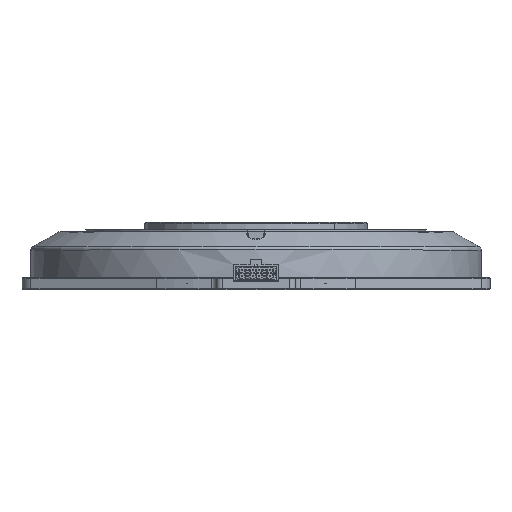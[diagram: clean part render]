
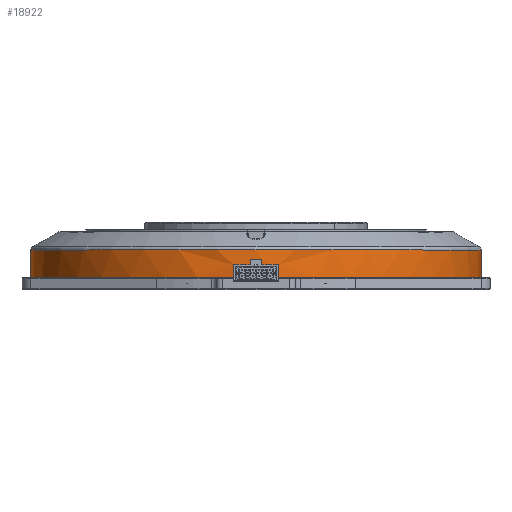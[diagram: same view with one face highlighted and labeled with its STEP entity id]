
A CAD part, top view. The second image highlights one B-rep face of the part: STEP entity #18922.
In plain terms, the highlighted cylindrical face has radius 119 mm (diameter 238 mm), a partial arc.
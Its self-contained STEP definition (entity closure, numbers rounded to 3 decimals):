
#2551=CARTESIAN_POINT('',(0.,20.685,0.));
#2552=DIRECTION('',(0.,-1.,0.));
#2553=DIRECTION('',(1.,0.,0.));
#2554=AXIS2_PLACEMENT_3D('',#2551,#2552,#2553);
#2559=DIRECTION('',(0.,-1.,0.));
#2560=VECTOR('',#2559,14.485);
#2561=CARTESIAN_POINT('',(119.,20.685,0.));
#2562=LINE('1293',#2561,#2560);
#2566=CARTESIAN_POINT('',(0.,6.2,0.));
#2567=DIRECTION('',(0.,-1.,0.));
#2568=DIRECTION('',(1.,0.,0.));
#2569=AXIS2_PLACEMENT_3D('',#2566,#2567,#2568);
#2574=DIRECTION('',(0.,-1.,0.));
#2575=VECTOR('',#2574,6.6);
#2576=CARTESIAN_POINT('',(12.,12.8,118.393));
#2577=LINE('1283',#2576,#2575);
#2581=CARTESIAN_POINT('',(0.,12.8,0.));
#2582=DIRECTION('',(0.,-1.,0.));
#2583=DIRECTION('',(0.101,0.,0.995));
#2584=AXIS2_PLACEMENT_3D('',#2581,#2582,#2583);
#2589=DIRECTION('',(0.,-1.,0.));
#2590=VECTOR('',#2589,3.);
#2591=CARTESIAN_POINT('',(3.,15.8,118.962));
#2592=LINE('1277',#2591,#2590);
#2596=CARTESIAN_POINT('',(0.,15.8,0.));
#2597=DIRECTION('',(0.,-1.,0.));
#2598=DIRECTION('',(0.025,0.,1.));
#2599=AXIS2_PLACEMENT_3D('',#2596,#2597,#2598);
#2604=DIRECTION('',(0.,-1.,0.));
#2605=VECTOR('',#2604,3.);
#2606=CARTESIAN_POINT('',(-3.,15.8,118.962));
#2607=LINE('1276',#2606,#2605);
#2611=CARTESIAN_POINT('',(0.,12.8,0.));
#2612=DIRECTION('',(0.,-1.,0.));
#2613=DIRECTION('',(-0.025,0.,1.));
#2614=AXIS2_PLACEMENT_3D('',#2611,#2612,#2613);
#2619=DIRECTION('',(0.,-1.,0.));
#2620=VECTOR('',#2619,6.6);
#2621=CARTESIAN_POINT('',(-12.,12.8,118.393));
#2622=LINE('1284',#2621,#2620);
#2626=CARTESIAN_POINT('',(0.,6.2,0.));
#2627=DIRECTION('',(0.,-1.,0.));
#2628=DIRECTION('',(-0.101,0.,0.995));
#2629=AXIS2_PLACEMENT_3D('',#2626,#2627,#2628);
#2634=DIRECTION('',(0.,-1.,0.));
#2635=VECTOR('',#2634,14.485);
#2636=CARTESIAN_POINT('',(-119.,20.685,0.));
#2637=LINE('1292',#2636,#2635);
#14438=CARTESIAN_POINT('',(3.,15.8,118.962));
#14439=CARTESIAN_POINT('',(-3.,15.8,118.962));
#14440=VERTEX_POINT('',#14438);
#14441=VERTEX_POINT('',#14439);
#14442=CARTESIAN_POINT('',(-3.,12.8,118.962));
#14443=VERTEX_POINT('',#14442);
#14444=CARTESIAN_POINT('',(3.,12.8,118.962));
#14445=VERTEX_POINT('',#14444);
#14446=CARTESIAN_POINT('',(12.,12.8,118.393));
#14447=VERTEX_POINT('',#14446);
#14448=CARTESIAN_POINT('',(-12.,12.8,118.393));
#14449=VERTEX_POINT('',#14448);
#14450=CARTESIAN_POINT('',(119.,6.2,0.));
#14451=CARTESIAN_POINT('',(12.,6.2,118.393));
#14452=VERTEX_POINT('',#14450);
#14453=VERTEX_POINT('',#14451);
#14454=CARTESIAN_POINT('',(-119.,6.2,0.));
#14455=VERTEX_POINT('',#14454);
#14456=CARTESIAN_POINT('',(-12.,6.2,118.393));
#14457=VERTEX_POINT('',#14456);
#14458=CARTESIAN_POINT('',(-119.,20.685,0.));
#14459=CARTESIAN_POINT('',(119.,20.685,0.));
#14460=VERTEX_POINT('',#14458);
#14461=VERTEX_POINT('',#14459);
#18895=CARTESIAN_POINT('',(0.,32.775,0.));
#18896=DIRECTION('',(0.,-1.,0.));
#18897=DIRECTION('',(-1.,0.,0.));
#18898=AXIS2_PLACEMENT_3D('',#18895,#18896,#18897);
#18899=CYLINDRICAL_SURFACE('322',#18898,119.);
#18901=ORIENTED_EDGE('1287',*,*,#18900,.F.);
#18903=ORIENTED_EDGE('1293',*,*,#18902,.T.);
#18904=ORIENTED_EDGE('1280',*,*,#17426,.T.);
#18905=ORIENTED_EDGE('1283',*,*,#18319,.F.);
#18907=ORIENTED_EDGE('1278',*,*,#18906,.T.);
#18909=ORIENTED_EDGE('1277',*,*,#18908,.F.);
#18911=ORIENTED_EDGE('1275',*,*,#18910,.T.);
#18913=ORIENTED_EDGE('1276',*,*,#18912,.T.);
#18915=ORIENTED_EDGE('1279',*,*,#18914,.T.);
#18916=ORIENTED_EDGE('1284',*,*,#18397,.T.);
#18917=ORIENTED_EDGE('1282',*,*,#17430,.T.);
#18919=ORIENTED_EDGE('1292',*,*,#18918,.F.);
#18920=EDGE_LOOP('322',(#18901,#18903,#18904,#18905,#18907,#18909,#18911,#18913,
#18915,#18916,#18917,#18919));
#18921=FACE_OUTER_BOUND('322',#18920,.F.);
#2555=CIRCLE('1287',#2554,119.);
#2570=CIRCLE('1280',#2569,119.);
#2585=CIRCLE('1278',#2584,119.);
#2600=CIRCLE('1275',#2599,119.);
#2615=CIRCLE('1279',#2614,119.);
#2630=CIRCLE('1282',#2629,119.);
#17426=EDGE_CURVE('1280',#14452,#14453,#2570,.T.);
#17430=EDGE_CURVE('1282',#14457,#14455,#2630,.T.);
#18319=EDGE_CURVE('1283',#14447,#14453,#2577,.T.);
#18397=EDGE_CURVE('1284',#14449,#14457,#2622,.T.);
#18900=EDGE_CURVE('1287',#14461,#14460,#2555,.T.);
#18902=EDGE_CURVE('1293',#14461,#14452,#2562,.T.);
#18906=EDGE_CURVE('1278',#14447,#14445,#2585,.T.);
#18908=EDGE_CURVE('1277',#14440,#14445,#2592,.T.);
#18910=EDGE_CURVE('1275',#14440,#14441,#2600,.T.);
#18912=EDGE_CURVE('1276',#14441,#14443,#2607,.T.);
#18914=EDGE_CURVE('1279',#14443,#14449,#2615,.T.);
#18918=EDGE_CURVE('1292',#14460,#14455,#2637,.T.);
#18922=ADVANCED_FACE('322',(#18921),#18899,.T.);
